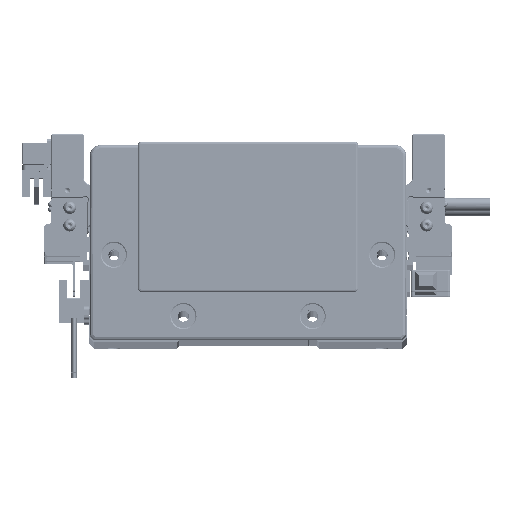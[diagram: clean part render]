
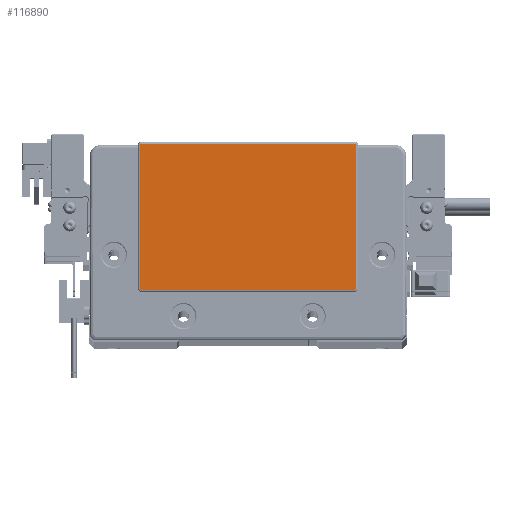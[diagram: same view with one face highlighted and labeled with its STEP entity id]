
A CAD part, top view. The second image highlights one B-rep face of the part: STEP entity #116890.
In plain terms, the highlighted planar face has unit normal (0, 0, 1) as drawn and (0, 0, -1) by its records, which use the part's own axes.
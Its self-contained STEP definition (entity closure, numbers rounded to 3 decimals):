
#393 = CARTESIAN_POINT ( 'NONE',  ( 48.75, 43.8, -2. ) ) ;
#790 = EDGE_CURVE ( 'NONE', #57720, #89096, #69760, .T. ) ;
#1469 = DIRECTION ( 'NONE',  ( 0., 1., 0. ) ) ;
#6321 = CARTESIAN_POINT ( 'NONE',  ( 0., 0., -2. ) ) ;
#10507 = VERTEX_POINT ( 'NONE', #26473 ) ;
#12983 = VECTOR ( 'NONE', #29991, 1000. ) ;
#13059 = ORIENTED_EDGE ( 'NONE', *, *, #60108, .T. ) ;
#14246 = CARTESIAN_POINT ( 'NONE',  ( -48.75, 43.8, -2. ) ) ;
#14792 = VECTOR ( 'NONE', #1469, 1000. ) ;
#15938 = DIRECTION ( 'NONE',  ( 0., 0., -1. ) ) ;
#17150 = ORIENTED_EDGE ( 'NONE', *, *, #66340, .T. ) ;
#18336 = DIRECTION ( 'NONE',  ( -1., 0., 0. ) ) ;
#19816 = AXIS2_PLACEMENT_3D ( 'NONE', #6321, #96266, #105859 ) ;
#19848 = CARTESIAN_POINT ( 'NONE',  ( 48.75, 44.3, -2. ) ) ;
#20260 = VECTOR ( 'NONE', #39574, 1000. ) ;
#22788 = LINE ( 'NONE', #93585, #42448 ) ;
#23796 = DIRECTION ( 'NONE',  ( 0., 0., -1. ) ) ;
#23885 = AXIS2_PLACEMENT_3D ( 'NONE', #99250, #15938, #81852 ) ;
#26473 = CARTESIAN_POINT ( 'NONE',  ( 49.25, 43.8, -2. ) ) ;
#29991 = DIRECTION ( 'NONE',  ( 1., 0., 0. ) ) ;
#33289 = EDGE_CURVE ( 'NONE', #99075, #10507, #96156, .T. ) ;
#33614 = VERTEX_POINT ( 'NONE', #35425 ) ;
#33954 = DIRECTION ( 'NONE',  ( -1., 0., 0. ) ) ;
#35425 = CARTESIAN_POINT ( 'NONE',  ( -49.25, 43.8, -2. ) ) ;
#36289 = DIRECTION ( 'NONE',  ( 0., 0., -1. ) ) ;
#36296 = CARTESIAN_POINT ( 'NONE',  ( -48.75, -22.3, -2. ) ) ;
#36332 = DIRECTION ( 'NONE',  ( 0., 0., -1. ) ) ;
#37413 = CARTESIAN_POINT ( 'NONE',  ( -49.25, 43.8, -2. ) ) ;
#37821 = CIRCLE ( 'NONE', #43556, 0.5 ) ;
#38329 = ORIENTED_EDGE ( 'NONE', *, *, #104729, .T. ) ;
#39574 = DIRECTION ( 'NONE',  ( 0., -1., 0. ) ) ;
#42448 = VECTOR ( 'NONE', #59352, 1000. ) ;
#42762 = EDGE_CURVE ( 'NONE', #89096, #46808, #22788, .T. ) ;
#43556 = AXIS2_PLACEMENT_3D ( 'NONE', #14246, #23796, #33954 ) ;
#44423 = AXIS2_PLACEMENT_3D ( 'NONE', #393, #36289, #18336 ) ;
#45405 = CARTESIAN_POINT ( 'NONE',  ( 48.75, -22.3, -2. ) ) ;
#45501 = ORIENTED_EDGE ( 'NONE', *, *, #790, .T. ) ;
#46405 = LINE ( 'NONE', #37413, #14792 ) ;
#46808 = VERTEX_POINT ( 'NONE', #36296 ) ;
#48639 = EDGE_CURVE ( 'NONE', #10507, #57720, #112184, .T. ) ;
#50087 = FACE_OUTER_BOUND ( 'NONE', #100724, .T. ) ;
#57720 = VERTEX_POINT ( 'NONE', #113073 ) ;
#58326 = CARTESIAN_POINT ( 'NONE',  ( 48.75, 44.3, -2. ) ) ;
#58439 = ORIENTED_EDGE ( 'NONE', *, *, #33289, .T. ) ;
#59352 = DIRECTION ( 'NONE',  ( -1., 0., 0. ) ) ;
#60108 = EDGE_CURVE ( 'NONE', #46808, #113078, #73519, .T. ) ;
#62881 = CARTESIAN_POINT ( 'NONE',  ( -48.75, 44.3, -2. ) ) ;
#65795 = AXIS2_PLACEMENT_3D ( 'NONE', #83123, #36332, #108925 ) ;
#65977 = CARTESIAN_POINT ( 'NONE',  ( 49.25, -21.8, -2. ) ) ;
#66340 = EDGE_CURVE ( 'NONE', #103922, #99075, #95357, .T. ) ;
#69760 = CIRCLE ( 'NONE', #23885, 0.5 ) ;
#73519 = CIRCLE ( 'NONE', #65795, 0.5 ) ;
#77074 = PLANE ( 'NONE',  #19816 ) ;
#80877 = CARTESIAN_POINT ( 'NONE',  ( -49.25, -21.8, -2. ) ) ;
#81204 = ORIENTED_EDGE ( 'NONE', *, *, #42762, .T. ) ;
#81852 = DIRECTION ( 'NONE',  ( -1., 0., 0. ) ) ;
#83123 = CARTESIAN_POINT ( 'NONE',  ( -48.75, -21.8, -2. ) ) ;
#89096 = VERTEX_POINT ( 'NONE', #45405 ) ;
#90171 = ORIENTED_EDGE ( 'NONE', *, *, #97291, .T. ) ;
#93585 = CARTESIAN_POINT ( 'NONE',  ( -48.75, -22.3, -2. ) ) ;
#94593 = ORIENTED_EDGE ( 'NONE', *, *, #48639, .T. ) ;
#95357 = LINE ( 'NONE', #19848, #12983 ) ;
#96156 = CIRCLE ( 'NONE', #44423, 0.5 ) ;
#96266 = DIRECTION ( 'NONE',  ( 0., 0., -1. ) ) ;
#97291 = EDGE_CURVE ( 'NONE', #33614, #103922, #37821, .T. ) ;
#99075 = VERTEX_POINT ( 'NONE', #58326 ) ;
#99250 = CARTESIAN_POINT ( 'NONE',  ( 48.75, -21.8, -2. ) ) ;
#100724 = EDGE_LOOP ( 'NONE', ( #94593, #45501, #81204, #13059, #38329, #90171, #17150, #58439 ) ) ;
#103922 = VERTEX_POINT ( 'NONE', #62881 ) ;
#104729 = EDGE_CURVE ( 'NONE', #113078, #33614, #46405, .T. ) ;
#105859 = DIRECTION ( 'NONE',  ( -1., 0., 0. ) ) ;
#108925 = DIRECTION ( 'NONE',  ( -1., 0., 0. ) ) ;
#112184 = LINE ( 'NONE', #65977, #20260 ) ;
#113073 = CARTESIAN_POINT ( 'NONE',  ( 49.25, -21.8, -2. ) ) ;
#113078 = VERTEX_POINT ( 'NONE', #80877 ) ;
#116890 = ADVANCED_FACE ( 'NONE', ( #50087 ), #77074, .T. ) ;
